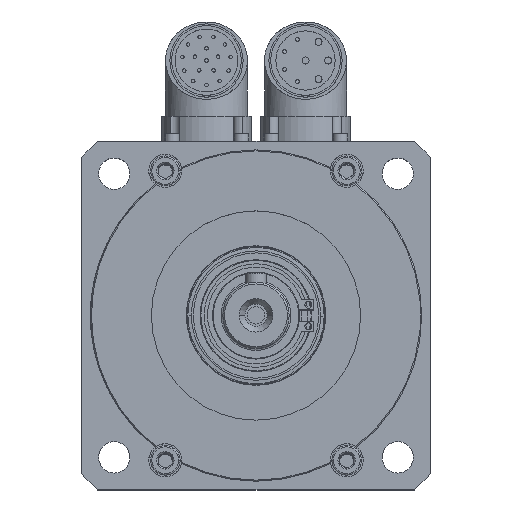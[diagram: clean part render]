
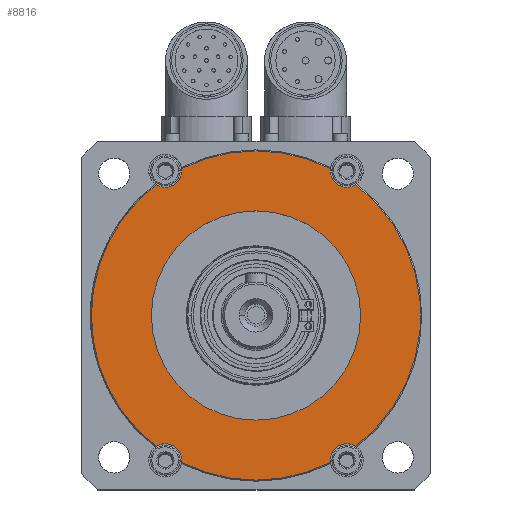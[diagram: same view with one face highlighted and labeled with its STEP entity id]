
A CAD part, top view. The second image highlights one B-rep face of the part: STEP entity #8816.
In plain terms, the highlighted planar face has unit normal (0, 0, 1).
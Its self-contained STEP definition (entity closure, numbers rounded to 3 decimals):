
#102 = VERTEX_POINT ( 'NONE', #9978 ) ;
#112 = VERTEX_POINT ( 'NONE', #10051 ) ;
#233 = VERTEX_POINT ( 'NONE', #9860 ) ;
#239 = VERTEX_POINT ( 'NONE', #9863 ) ;
#262 = VERTEX_POINT ( 'NONE', #9874 ) ;
#296 = VERTEX_POINT ( 'NONE', #10024 ) ;
#299 = VERTEX_POINT ( 'NONE', #9889 ) ;
#302 = VERTEX_POINT ( 'NONE', #9890 ) ;
#314 = VERTEX_POINT ( 'NONE', #9905 ) ;
#325 = VERTEX_POINT ( 'NONE', #9918 ) ;
#327 = VERTEX_POINT ( 'NONE', #9920 ) ;
#339 = VERTEX_POINT ( 'NONE', #9801 ) ;
#361 = VERTEX_POINT ( 'NONE', #9772 ) ;
#379 = VERTEX_POINT ( 'NONE', #10064 ) ;
#398 = VERTEX_POINT ( 'NONE', #9703 ) ;
#618 = CIRCLE ( 'NONE', #6400, 4.75 ) ;
#635 = CIRCLE ( 'NONE', #6421, 30. ) ;
#642 = CIRCLE ( 'NONE', #6423, 47.2 ) ;
#654 = CIRCLE ( 'NONE', #6428, 4.75 ) ;
#663 = CIRCLE ( 'NONE', #6432, 4.75 ) ;
#781 = CIRCLE ( 'NONE', #6470, 47.2 ) ;
#786 = CIRCLE ( 'NONE', #6474, 47.2 ) ;
#791 = CIRCLE ( 'NONE', #6477, 4.75 ) ;
#1019 = CIRCLE ( 'NONE', #6544, 4.75 ) ;
#1289 = EDGE_CURVE ( 'NONE', #361, #299, #14970, .T. ) ;
#1299 = EDGE_CURVE ( 'NONE', #398, #262, #14984, .T. ) ;
#1317 = EDGE_CURVE ( 'NONE', #314, #296, #15006, .T. ) ;
#1947 = AXIS2_PLACEMENT_3D ( 'NONE', #3508, #5802, #5812 ) ;
#1951 = AXIS2_PLACEMENT_3D ( 'NONE', #5692, #5647, #5710 ) ;
#1964 = AXIS2_PLACEMENT_3D ( 'NONE', #5734, #5722, #5686 ) ;
#3127 = AXIS2_PLACEMENT_3D ( 'NONE', #10695, #10696, #10697 ) ;
#3145 = AXIS2_PLACEMENT_3D ( 'NONE', #10766, #10768, #10769 ) ;
#3147 = AXIS2_PLACEMENT_3D ( 'NONE', #10767, #10774, #10775 ) ;
#3508 = CARTESIAN_POINT ( 'NONE',  ( -26., 41.5, 20. ) ) ;
#4918 = FACE_OUTER_BOUND ( 'NONE', #12963, .T. ) ;
#4926 = FACE_BOUND ( 'NONE', #12810, .T. ) ;
#5647 = DIRECTION ( 'NONE',  ( 0., 0., 1. ) ) ;
#5686 = DIRECTION ( 'NONE',  ( 1., 0., 0. ) ) ;
#5692 = CARTESIAN_POINT ( 'NONE',  ( 0., 0., 20. ) ) ;
#5710 = DIRECTION ( 'NONE',  ( 1., 0., 0. ) ) ;
#5722 = DIRECTION ( 'NONE',  ( 0., 0., 1. ) ) ;
#5734 = CARTESIAN_POINT ( 'NONE',  ( -26., -41.5, 20. ) ) ;
#5802 = DIRECTION ( 'NONE',  ( 0., 0., 1. ) ) ;
#5812 = DIRECTION ( 'NONE',  ( 1., 0., 0. ) ) ;
#5921 = EDGE_CURVE ( 'NONE', #239, #112, #13563, .T. ) ;
#5947 = EDGE_CURVE ( 'NONE', #339, #325, #13640, .T. ) ;
#5949 = EDGE_CURVE ( 'NONE', #339, #299, #13648, .T. ) ;
#6400 = AXIS2_PLACEMENT_3D ( 'NONE', #7121, #7122, #7123 ) ;
#6421 = AXIS2_PLACEMENT_3D ( 'NONE', #7155, #7163, #7164 ) ;
#6423 = AXIS2_PLACEMENT_3D ( 'NONE', #7179, #7181, #7182 ) ;
#6428 = AXIS2_PLACEMENT_3D ( 'NONE', #7183, #7205, #7206 ) ;
#6432 = AXIS2_PLACEMENT_3D ( 'NONE', #7217, #7224, #7225 ) ;
#6470 = AXIS2_PLACEMENT_3D ( 'NONE', #7428, #7431, #7432 ) ;
#6474 = AXIS2_PLACEMENT_3D ( 'NONE', #7439, #7446, #7447 ) ;
#6477 = AXIS2_PLACEMENT_3D ( 'NONE', #7448, #7455, #7456 ) ;
#6544 = AXIS2_PLACEMENT_3D ( 'NONE', #17101, #17112, #17113 ) ;
#6599 = AXIS2_PLACEMENT_3D ( 'NONE', #17286, #17289, #17290 ) ;
#7121 = CARTESIAN_POINT ( 'NONE',  ( 26., 41.5, 20. ) ) ;
#7122 = DIRECTION ( 'NONE',  ( 0., 0., 1. ) ) ;
#7123 = DIRECTION ( 'NONE',  ( 1., 0., 0. ) ) ;
#7155 = CARTESIAN_POINT ( 'NONE',  ( 0., 0., 20. ) ) ;
#7163 = DIRECTION ( 'NONE',  ( 0., 0., 1. ) ) ;
#7164 = DIRECTION ( 'NONE',  ( 1., 0., 0. ) ) ;
#7179 = CARTESIAN_POINT ( 'NONE',  ( 0., 0., 20. ) ) ;
#7181 = DIRECTION ( 'NONE',  ( 0., 0., 1. ) ) ;
#7182 = DIRECTION ( 'NONE',  ( 1., 0., 0. ) ) ;
#7183 = CARTESIAN_POINT ( 'NONE',  ( -26., -41.5, 20. ) ) ;
#7205 = DIRECTION ( 'NONE',  ( 0., 0., 1. ) ) ;
#7206 = DIRECTION ( 'NONE',  ( 1., 0., 0. ) ) ;
#7217 = CARTESIAN_POINT ( 'NONE',  ( -26., 41.5, 20. ) ) ;
#7224 = DIRECTION ( 'NONE',  ( 0., 0., 1. ) ) ;
#7225 = DIRECTION ( 'NONE',  ( 1., 0., 0. ) ) ;
#7428 = CARTESIAN_POINT ( 'NONE',  ( 0., 0., 20. ) ) ;
#7431 = DIRECTION ( 'NONE',  ( 0., 0., 1. ) ) ;
#7432 = DIRECTION ( 'NONE',  ( 1., 0., 0. ) ) ;
#7439 = CARTESIAN_POINT ( 'NONE',  ( 0., 0., 20. ) ) ;
#7446 = DIRECTION ( 'NONE',  ( 0., 0., 1. ) ) ;
#7447 = DIRECTION ( 'NONE',  ( 1., 0., 0. ) ) ;
#7448 = CARTESIAN_POINT ( 'NONE',  ( 26., -41.5, 20. ) ) ;
#7455 = DIRECTION ( 'NONE',  ( 0., 0., 1. ) ) ;
#7456 = DIRECTION ( 'NONE',  ( 1., 0., 0. ) ) ;
#8475 = EDGE_CURVE ( 'NONE', #325, #233, #618, .T. ) ;
#8490 = EDGE_CURVE ( 'NONE', #112, #239, #635, .T. ) ;
#8496 = EDGE_CURVE ( 'NONE', #262, #296, #642, .T. ) ;
#8505 = EDGE_CURVE ( 'NONE', #327, #314, #654, .T. ) ;
#8512 = EDGE_CURVE ( 'NONE', #398, #361, #663, .T. ) ;
#8594 = EDGE_CURVE ( 'NONE', #379, #233, #781, .T. ) ;
#8599 = EDGE_CURVE ( 'NONE', #327, #302, #786, .T. ) ;
#8602 = EDGE_CURVE ( 'NONE', #379, #102, #791, .T. ) ;
#8762 = EDGE_CURVE ( 'NONE', #102, #302, #1019, .T. ) ;
#8816 = ADVANCED_FACE ( 'NONE', ( #4918, #4926 ), #17287, .T. ) ;
#9703 = CARTESIAN_POINT ( 'NONE',  ( -28.617, 37.536, 20. ) ) ;
#9772 = CARTESIAN_POINT ( 'NONE',  ( -21.25, 41.5, 20. ) ) ;
#9801 = CARTESIAN_POINT ( 'NONE',  ( 21.291, 42.125, 20. ) ) ;
#9860 = CARTESIAN_POINT ( 'NONE',  ( 28.617, 37.536, 20. ) ) ;
#9863 = CARTESIAN_POINT ( 'NONE',  ( 30., 0., 20. ) ) ;
#9874 = CARTESIAN_POINT ( 'NONE',  ( -47.2, 0., 20. ) ) ;
#9889 = CARTESIAN_POINT ( 'NONE',  ( -21.291, 42.125, 20. ) ) ;
#9890 = CARTESIAN_POINT ( 'NONE',  ( 21.291, -42.125, 20. ) ) ;
#9905 = CARTESIAN_POINT ( 'NONE',  ( -21.25, -41.5, 20. ) ) ;
#9918 = CARTESIAN_POINT ( 'NONE',  ( 21.25, 41.5, 20. ) ) ;
#9920 = CARTESIAN_POINT ( 'NONE',  ( -21.291, -42.125, 20. ) ) ;
#9978 = CARTESIAN_POINT ( 'NONE',  ( 21.25, -41.5, 20. ) ) ;
#10024 = CARTESIAN_POINT ( 'NONE',  ( -28.617, -37.536, 20. ) ) ;
#10051 = CARTESIAN_POINT ( 'NONE',  ( -30., 0., 20. ) ) ;
#10064 = CARTESIAN_POINT ( 'NONE',  ( 28.617, -37.536, 20. ) ) ;
#10695 = CARTESIAN_POINT ( 'NONE',  ( 0., 0., 20. ) ) ;
#10696 = DIRECTION ( 'NONE',  ( 0., 0., 1. ) ) ;
#10697 = DIRECTION ( 'NONE',  ( 1., 0., 0. ) ) ;
#10766 = CARTESIAN_POINT ( 'NONE',  ( 26., 41.5, 20. ) ) ;
#10767 = CARTESIAN_POINT ( 'NONE',  ( 0., 0., 20. ) ) ;
#10768 = DIRECTION ( 'NONE',  ( 0., 0., 1. ) ) ;
#10769 = DIRECTION ( 'NONE',  ( 1., 0., 0. ) ) ;
#10774 = DIRECTION ( 'NONE',  ( 0., 0., 1. ) ) ;
#10775 = DIRECTION ( 'NONE',  ( 1., 0., 0. ) ) ;
#12810 = EDGE_LOOP ( 'NONE', ( #17417, #17421 ) ) ;
#12963 = EDGE_LOOP ( 'NONE', ( #17407, #17412, #17411, #17410, #17409, #17423, #17413, #17426, #17416, #17425, #17415, #17424, #17414 ) ) ;
#13563 = CIRCLE ( 'NONE', #3127, 30. ) ;
#13640 = CIRCLE ( 'NONE', #3145, 4.75 ) ;
#13648 = CIRCLE ( 'NONE', #3147, 47.2 ) ;
#14970 = CIRCLE ( 'NONE', #1947, 4.75 ) ;
#14984 = CIRCLE ( 'NONE', #1951, 47.2 ) ;
#15006 = CIRCLE ( 'NONE', #1964, 4.75 ) ;
#17101 = CARTESIAN_POINT ( 'NONE',  ( 26., -41.5, 20. ) ) ;
#17112 = DIRECTION ( 'NONE',  ( 0., 0., 1. ) ) ;
#17113 = DIRECTION ( 'NONE',  ( 1., 0., 0. ) ) ;
#17286 = CARTESIAN_POINT ( 'NONE',  ( -50., 50., 20. ) ) ;
#17287 = PLANE ( 'NONE',  #6599 ) ;
#17289 = DIRECTION ( 'NONE',  ( 0., 0., 1. ) ) ;
#17290 = DIRECTION ( 'NONE',  ( 1., 0., 0. ) ) ;
#17407 = ORIENTED_EDGE ( 'NONE', *, *, #8512, .F. ) ;
#17409 = ORIENTED_EDGE ( 'NONE', *, *, #8505, .F. ) ;
#17410 = ORIENTED_EDGE ( 'NONE', *, *, #1317, .F. ) ;
#17411 = ORIENTED_EDGE ( 'NONE', *, *, #8496, .T. ) ;
#17412 = ORIENTED_EDGE ( 'NONE', *, *, #1299, .T. ) ;
#17413 = ORIENTED_EDGE ( 'NONE', *, *, #8762, .F. ) ;
#17414 = ORIENTED_EDGE ( 'NONE', *, *, #1289, .F. ) ;
#17415 = ORIENTED_EDGE ( 'NONE', *, *, #5947, .F. ) ;
#17416 = ORIENTED_EDGE ( 'NONE', *, *, #8594, .T. ) ;
#17417 = ORIENTED_EDGE ( 'NONE', *, *, #5921, .F. ) ;
#17421 = ORIENTED_EDGE ( 'NONE', *, *, #8490, .F. ) ;
#17423 = ORIENTED_EDGE ( 'NONE', *, *, #8599, .T. ) ;
#17424 = ORIENTED_EDGE ( 'NONE', *, *, #5949, .T. ) ;
#17425 = ORIENTED_EDGE ( 'NONE', *, *, #8475, .F. ) ;
#17426 = ORIENTED_EDGE ( 'NONE', *, *, #8602, .F. ) ;
